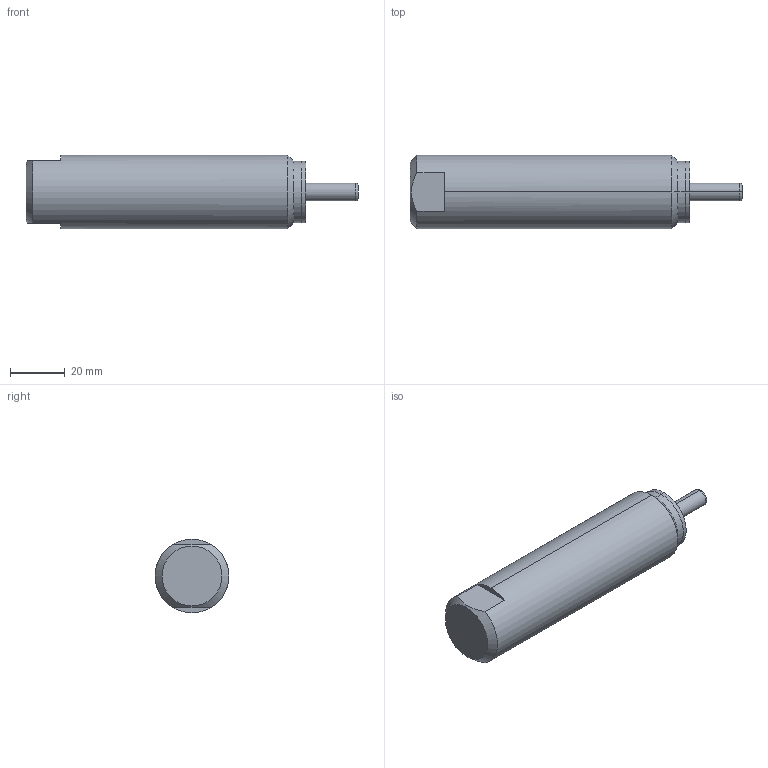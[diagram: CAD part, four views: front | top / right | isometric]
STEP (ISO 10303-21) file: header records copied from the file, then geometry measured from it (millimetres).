
FILE_DESCRIPTION (( 'STEP AP214' ), '1' );
FILE_NAME ('ES18363.STEP', '2019-12-05T08:10:40', ( 'user' ), ( 'Microsoft' ), 'SwSTEP 2.0', 'SolidWorks 2016', '' );
FILE_SCHEMA (( 'AUTOMOTIVE_DESIGN' ));
Length unit declared in the file: millimetre
Products named in the file (1): ES18363
Bounding box: 121.8 x 27 x 27 mm (x, y, z)
Volume: 57765.3 mm3; surface area: 11611.4 mm2
Topology: 4 solids, 4 shells, 30 faces, 58 edges, 36 vertices
Faces by surface type: plane 16, cylinder 8, cone 4, torus 2
Entity records: 859 total; most frequent: CARTESIAN_POINT 165, DIRECTION 144, ORIENTED_EDGE 116, AXIS2_PLACEMENT_3D 59, EDGE_CURVE 58, VERTEX_POINT 36, ADVANCED_FACE 30, FACE_OUTER_BOUND 30
